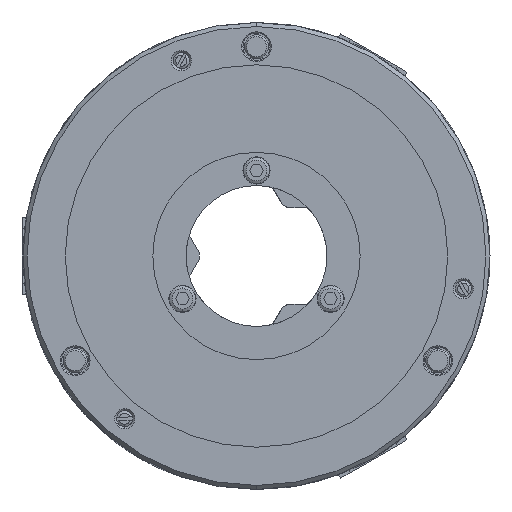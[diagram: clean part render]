
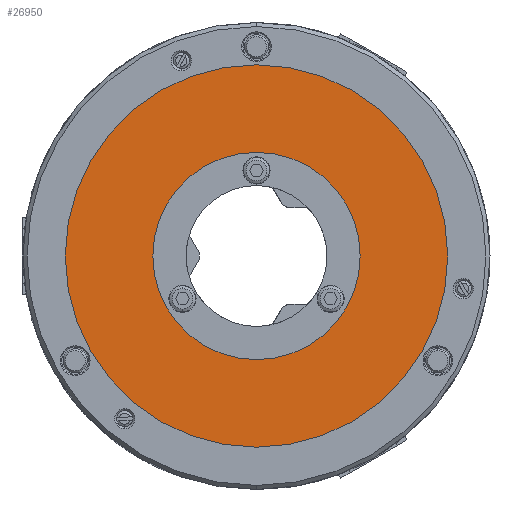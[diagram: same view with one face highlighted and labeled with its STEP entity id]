
A CAD part, left-side view. The second image highlights one B-rep face of the part: STEP entity #26950.
In plain terms, the highlighted planar face has unit normal (-1, 0, 0).
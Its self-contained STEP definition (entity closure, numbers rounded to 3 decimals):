
#647 = CIRCLE ( 'NONE', #17595, 51.5 ) ;
#1119 = EDGE_CURVE ( 'NONE', #16031, #14514, #10943, .T. ) ;
#1373 = DIRECTION ( 'NONE',  ( 0., 0., -1. ) ) ;
#1847 = DIRECTION ( 'NONE',  ( 0., 0., -1. ) ) ;
#1853 = VERTEX_POINT ( 'NONE', #2945 ) ;
#2332 = DIRECTION ( 'NONE',  ( -1., 0., 0. ) ) ;
#2945 = CARTESIAN_POINT ( 'NONE',  ( -78., 0., -51.5 ) ) ;
#3291 = ORIENTED_EDGE ( 'NONE', *, *, #6913, .F. ) ;
#3608 = CARTESIAN_POINT ( 'NONE',  ( -78., 0., 0. ) ) ;
#4421 = EDGE_LOOP ( 'NONE', ( #27358, #8623 ) ) ;
#4431 = PLANE ( 'NONE',  #21540 ) ;
#5031 = ORIENTED_EDGE ( 'NONE', *, *, #1119, .F. ) ;
#5349 = CIRCLE ( 'NONE', #20528, 51.5 ) ;
#6440 = DIRECTION ( 'NONE',  ( 0., 0., -1. ) ) ;
#6475 = EDGE_LOOP ( 'NONE', ( #5031, #3291 ) ) ;
#6913 = EDGE_CURVE ( 'NONE', #14514, #16031, #14719, .T. ) ;
#7222 = DIRECTION ( 'NONE',  ( 1., 0., 0. ) ) ;
#8623 = ORIENTED_EDGE ( 'NONE', *, *, #16363, .T. ) ;
#8628 = FACE_OUTER_BOUND ( 'NONE', #6475, .T. ) ;
#9641 = CARTESIAN_POINT ( 'NONE',  ( -78., 0., 51.5 ) ) ;
#10943 = CIRCLE ( 'NONE', #14513, 95. ) ;
#12962 = CARTESIAN_POINT ( 'NONE',  ( -78., 47.5, -82.272 ) ) ;
#13022 = CARTESIAN_POINT ( 'NONE',  ( -78., 0., 0. ) ) ;
#13497 = DIRECTION ( 'NONE',  ( 0., 0., 1. ) ) ;
#14513 = AXIS2_PLACEMENT_3D ( 'NONE', #15873, #7222, #22004 ) ;
#14514 = VERTEX_POINT ( 'NONE', #16540 ) ;
#14719 = CIRCLE ( 'NONE', #16041, 95. ) ;
#15873 = CARTESIAN_POINT ( 'NONE',  ( -78., 0., 0. ) ) ;
#16031 = VERTEX_POINT ( 'NONE', #23084 ) ;
#16041 = AXIS2_PLACEMENT_3D ( 'NONE', #13022, #25565, #6440 ) ;
#16363 = EDGE_CURVE ( 'NONE', #25511, #1853, #647, .T. ) ;
#16540 = CARTESIAN_POINT ( 'NONE',  ( -78., 0., 95. ) ) ;
#17064 = CARTESIAN_POINT ( 'NONE',  ( -78., 0., 0. ) ) ;
#17595 = AXIS2_PLACEMENT_3D ( 'NONE', #17064, #21247, #1847 ) ;
#20528 = AXIS2_PLACEMENT_3D ( 'NONE', #3608, #27327, #1373 ) ;
#21247 = DIRECTION ( 'NONE',  ( 1., 0., 0. ) ) ;
#21540 = AXIS2_PLACEMENT_3D ( 'NONE', #12962, #2332, #13497 ) ;
#22004 = DIRECTION ( 'NONE',  ( 0., 0., -1. ) ) ;
#23084 = CARTESIAN_POINT ( 'NONE',  ( -78., 0., -95. ) ) ;
#23824 = EDGE_CURVE ( 'NONE', #1853, #25511, #5349, .T. ) ;
#25361 = FACE_BOUND ( 'NONE', #4421, .T. ) ;
#25511 = VERTEX_POINT ( 'NONE', #9641 ) ;
#25565 = DIRECTION ( 'NONE',  ( 1., 0., 0. ) ) ;
#26950 = ADVANCED_FACE ( 'NONE', ( #25361, #8628 ), #4431, .T. ) ;
#27327 = DIRECTION ( 'NONE',  ( 1., 0., 0. ) ) ;
#27358 = ORIENTED_EDGE ( 'NONE', *, *, #23824, .T. ) ;
